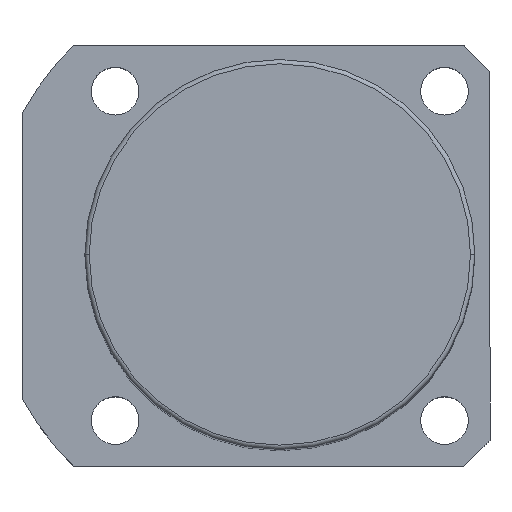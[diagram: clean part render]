
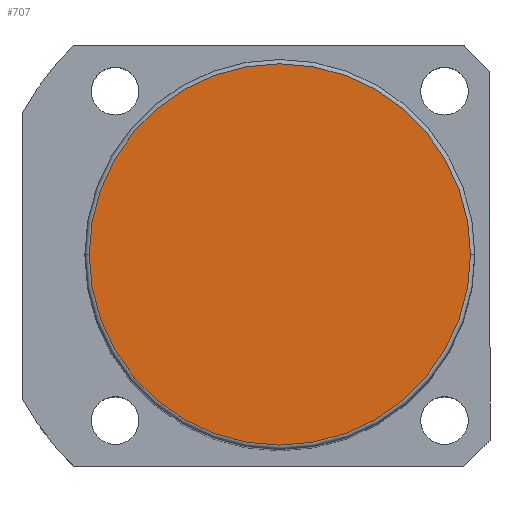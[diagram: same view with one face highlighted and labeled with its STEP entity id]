
A CAD part, top view. The second image highlights one B-rep face of the part: STEP entity #707.
In plain terms, the highlighted planar face has unit normal (0, 0, 1).
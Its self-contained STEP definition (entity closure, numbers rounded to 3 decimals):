
#66 = DIRECTION ( 'NONE',  ( 1., 0., 0. ) ) ;
#235 = ORIENTED_EDGE ( 'NONE', *, *, #4577, .T. ) ;
#411 = DIRECTION ( 'NONE',  ( 1., 0., 0. ) ) ;
#534 = VERTEX_POINT ( 'NONE', #745 ) ;
#707 = ADVANCED_FACE ( 'NONE', ( #3380 ), #5596, .T. ) ;
#745 = CARTESIAN_POINT ( 'NONE',  ( -44., 0., 201.5 ) ) ;
#1219 = CARTESIAN_POINT ( 'NONE',  ( 44., 0., 201.5 ) ) ;
#1717 = ORIENTED_EDGE ( 'NONE', *, *, #2458, .T. ) ;
#1854 = AXIS2_PLACEMENT_3D ( 'NONE', #5342, #5644, #5667 ) ;
#2394 = EDGE_LOOP ( 'NONE', ( #235, #1717 ) ) ;
#2458 = EDGE_CURVE ( 'NONE', #534, #5173, #4046, .T. ) ;
#3221 = AXIS2_PLACEMENT_3D ( 'NONE', #6699, #3414, #66 ) ;
#3380 = FACE_OUTER_BOUND ( 'NONE', #2394, .T. ) ;
#3414 = DIRECTION ( 'NONE',  ( 0., 0., 1. ) ) ;
#3742 = DIRECTION ( 'NONE',  ( 0., 0., 1. ) ) ;
#4046 = CIRCLE ( 'NONE', #3221, 44. ) ;
#4577 = EDGE_CURVE ( 'NONE', #5173, #534, #6199, .T. ) ;
#5173 = VERTEX_POINT ( 'NONE', #1219 ) ;
#5199 = AXIS2_PLACEMENT_3D ( 'NONE', #7023, #3742, #411 ) ;
#5342 = CARTESIAN_POINT ( 'NONE',  ( 0., 0., 201.5 ) ) ;
#5596 = PLANE ( 'NONE',  #1854 ) ;
#5644 = DIRECTION ( 'NONE',  ( 0., 0., 1. ) ) ;
#5667 = DIRECTION ( 'NONE',  ( 1., 0., 0. ) ) ;
#6199 = CIRCLE ( 'NONE', #5199, 44. ) ;
#6699 = CARTESIAN_POINT ( 'NONE',  ( 0., 0., 201.5 ) ) ;
#7023 = CARTESIAN_POINT ( 'NONE',  ( 0., 0., 201.5 ) ) ;
